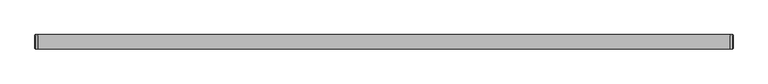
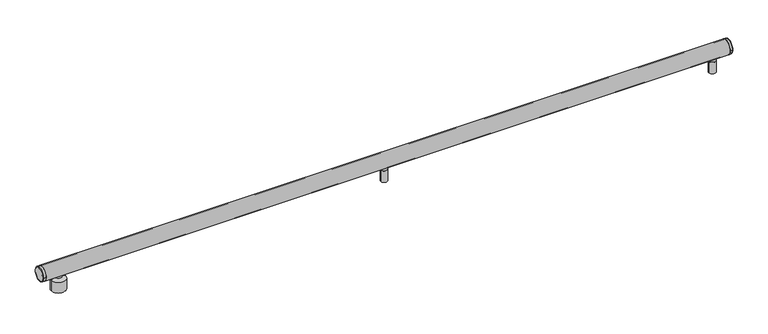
"""IFC4 building model written with IfcOpenShell, lengths in millimetres: light fixture geometry, ARTEMIDE-AoL-StandAlone-Linear_WallCeiling : StandALone_SemiRecessed_Linear-2400mm 6969lm 3000K."""

import ifcopenshell
import ifcopenshell.guid

model = None  # the IFC model being written
_history = None  # IfcOwnerHistory: only IFC2X3 demands one
_inside = {}  # id of a spatial element -> (the spatial element, [elements in it])
_under = {}  # id of a project, library or spatial element -> (it, [spatial elements below it])
_declared = {}  # id of a project -> (the project, [libraries it declares])
_typed = {}  # id of a type object -> (the type object, [elements of that type])
_made_of = {}  # id of a material, layer set ... -> (it, [elements and type objects made of it])


def new_model(schema):
    """Start an empty IFC model of exactly this schema.

    Asked for "IFC4X3", IfcOpenShell would pick the latest addendum, in which some entities
    have other attributes; the version numbers below select the first issue.
    IFC2X3 requires an IfcOwnerHistory on every rooted entity: one is made here for all.
    """
    global model, _history
    if schema == "IFC4X3":
        model = ifcopenshell.file(schema_version=(4, 3, 0, 0))
    else:
        model = ifcopenshell.file(schema=schema)
    _inside.clear()
    _under.clear()
    _declared.clear()
    _typed.clear()
    _made_of.clear()
    _history = None
    if model.schema == "IFC2X3":
        org = make("IfcOrganization", Name="unknown")
        user = make(
            "IfcPersonAndOrganization",
            ThePerson=make("IfcPerson", FamilyName="unknown"),
            TheOrganization=org,
        )
        app = make(
            "IfcApplication",
            ApplicationDeveloper=org,
            Version="unknown",
            ApplicationFullName="unknown",
            ApplicationIdentifier="unknown",
        )
        _history = make(
            "IfcOwnerHistory",
            OwningUser=user,
            OwningApplication=app,
            ChangeAction="ADDED",
            CreationDate=0,
        )
    return model


def make(cls, **values):
    """One entity of the class cls with the attributes given. An attribute that is None is left unset."""
    return model.create_entity(
        cls, **{name: value for name, value in values.items() if value is not None}
    )


def rooted(cls, **values):
    """An entity with a GlobalId (a new one), such as an element, a storey or a relation."""
    return make(cls, GlobalId=ifcopenshell.guid.new(), OwnerHistory=_history, **values)


def si_unit(unit_type, name, prefix=None):
    """IfcSIUnit, for example si_unit("LENGTHUNIT", "METRE", prefix="MILLI")."""
    return make("IfcSIUnit", UnitType=unit_type, Prefix=prefix, Name=name)


def assignment(units):
    """IfcUnitAssignment: the units of a project."""
    return None if units is None else make("IfcUnitAssignment", Units=units)


def point(xyz):
    """IfcCartesianPoint."""
    return None if xyz is None else make("IfcCartesianPoint", Coordinates=xyz)


def direction(xyz):
    """IfcDirection."""
    return None if xyz is None else make("IfcDirection", DirectionRatios=xyz)


def frame(location, z_axis=None, x_axis=None):
    """IfcAxis2Placement3D, a coordinate frame: its origin and axes. An axis left out is left unset."""
    return make(
        "IfcAxis2Placement3D",
        Location=point(location),
        Axis=direction(z_axis),
        RefDirection=direction(x_axis),
    )


def frame_2d(location, x_axis=None):
    """IfcAxis2Placement2D, a coordinate frame in the plane: its origin and x axis."""
    return make(
        "IfcAxis2Placement2D", Location=point(location), RefDirection=direction(x_axis)
    )


def origin():
    """The frame at (0, 0, 0) with its axes left unset."""
    return frame((0.0, 0.0, 0.0))


def place(relative_to, where):
    """IfcLocalPlacement: puts the frame where relative to a parent placement (None: the world)."""
    return make(
        "IfcLocalPlacement", PlacementRelTo=relative_to, RelativePlacement=where
    )


def context(
    kind, dimensions, precision=None, world=None, true_north=None, identifier=None
):
    """IfcGeometricRepresentationContext, for example the 3D "Model" context."""
    return make(
        "IfcGeometricRepresentationContext",
        ContextIdentifier=identifier,
        ContextType=kind,
        CoordinateSpaceDimension=dimensions,
        Precision=precision,
        WorldCoordinateSystem=world,
        TrueNorth=true_north,
    )


def project(units=None, contexts=None):
    """IfcProject with its units and contexts."""
    return rooted(
        "IfcProject",
        Name="project",
        RepresentationContexts=contexts,
        UnitsInContext=assignment(units),
    )


def spatial(cls, under=None, at=None, **own):
    """A site, building, storey or space (cls), placed at a placement, below another one or the project."""
    s = rooted(cls, ObjectPlacement=at, **own)
    if under is not None:
        _under.setdefault(under.id(), (under, []))[1].append(s)
    return s


def polyline(points):
    """IfcPolyline through the points."""
    return make("IfcPolyline", Points=[point(p) for p in points])


def circle_curve(where, radius):
    """IfcCircle in the frame where."""
    return make("IfcCircle", Position=where, Radius=radius)


def ellipse_curve(where, semi_axis1, semi_axis2):
    """IfcEllipse in the frame where."""
    return make(
        "IfcEllipse", Position=where, SemiAxis1=semi_axis1, SemiAxis2=semi_axis2
    )


def trimmed(basis, trim1, trim2, sense, master):
    """IfcTrimmedCurve: the piece of a basis curve between two trims."""
    return make(
        "IfcTrimmedCurve",
        BasisCurve=basis,
        Trim1=trim1,
        Trim2=trim2,
        SenseAgreement=sense,
        MasterRepresentation=master,
    )


def segment(curve, same_sense, transition):
    """IfcCompositeCurveSegment."""
    return make(
        "IfcCompositeCurveSegment",
        Transition=transition,
        SameSense=same_sense,
        ParentCurve=curve,
    )


def composite_curve(segments, self_intersect=None):
    """IfcCompositeCurve: segments joined end to end."""
    return make("IfcCompositeCurve", Segments=segments, SelfIntersect=self_intersect)


def outline(outer, holes=None, kind="AREA"):
    """IfcArbitraryClosedProfileDef: a profile drawn as a closed curve; with holes, ...WithVoids."""
    if holes is None:
        return make("IfcArbitraryClosedProfileDef", ProfileType=kind, OuterCurve=outer)
    return make(
        "IfcArbitraryProfileDefWithVoids",
        ProfileType=kind,
        OuterCurve=outer,
        InnerCurves=holes,
    )


def extrude(swept, where, along, depth):
    """IfcExtrudedAreaSolid: the profile swept, set in the frame where, extruded along a direction by depth."""
    return make(
        "IfcExtrudedAreaSolid",
        SweptArea=swept,
        Position=where,
        ExtrudedDirection=direction(along),
        Depth=depth,
    )


def shape(context_of_items, identifier, shape_type, items):
    """IfcShapeRepresentation: the items that make up one representation, for example the "Body"."""
    return make(
        "IfcShapeRepresentation",
        ContextOfItems=context_of_items,
        RepresentationIdentifier=identifier,
        RepresentationType=shape_type,
        Items=items,
    )


def source(mapping_origin, context_of_items, identifier, shape_type, items):
    """IfcRepresentationMap: a shape defined once, which mapped items show again and again."""
    return make(
        "IfcRepresentationMap",
        MappingOrigin=mapping_origin,
        MappedRepresentation=shape(context_of_items, identifier, shape_type, items),
    )


def transform(
    local_origin,
    x_axis=None,
    y_axis=None,
    z_axis=None,
    scale=None,
    scale2=None,
    scale3=None,
    uniform=True,
):
    """IfcCartesianTransformationOperator3D, or its non-uniform kind. x_axis, y_axis, z_axis: its Axis1, 2, 3."""
    if uniform:
        return make(
            "IfcCartesianTransformationOperator3D",
            Axis1=direction(x_axis),
            Axis2=direction(y_axis),
            LocalOrigin=point(local_origin),
            Scale=scale,
            Axis3=direction(z_axis),
        )
    return make(
        "IfcCartesianTransformationOperator3DnonUniform",
        Axis1=direction(x_axis),
        Axis2=direction(y_axis),
        LocalOrigin=point(local_origin),
        Scale=scale,
        Axis3=direction(z_axis),
        Scale2=scale2,
        Scale3=scale3,
    )


def mapped(mapping_source, mapping_target):
    """IfcMappedItem: shows the shape of a source again, moved by a transform."""
    return make(
        "IfcMappedItem", MappingSource=mapping_source, MappingTarget=mapping_target
    )


def made_of(thing, what):
    """Note that an element or type object is made of a material, layer set ...; save() writes the relation."""
    if what is not None:
        _made_of.setdefault(what.id(), (what, []))[1].append(thing)
    return thing


def element(
    cls,
    number,
    at=None,
    inside=None,
    cuts=None,
    type_object=None,
    material=None,
    context=None,
    identifier="Body",
    shape_type=None,
    held_by="IfcProductDefinitionShape",
    body=None,
    shapes=None,
    **own,
):
    """One element of the class cls, such as IfcWall. Its Tag is "e" and its number.

    at: its placement. inside: the storey or other place that contains it. cuts: it is an
    opening in that element (IfcRelVoidsElement). A single representation is given by context,
    identifier, shape_type and body (its items); several are given by shapes. held_by: the class
    of the entity that holds the representations. save() writes the other relations.
    """
    e = rooted(cls, Tag="e%d" % number, ObjectPlacement=at, **own)
    if body is not None:
        shapes = [shape(context, identifier, shape_type, body)]
    if shapes is not None:
        e.Representation = make(held_by, Representations=shapes)
    if inside is not None:
        _inside.setdefault(inside.id(), (inside, []))[1].append(e)
    if cuts is not None:
        rooted(
            "IfcRelVoidsElement", RelatingBuildingElement=cuts, RelatedOpeningElement=e
        )
    if type_object is not None:
        _typed.setdefault(type_object.id(), (type_object, []))[1].append(e)
    return made_of(e, material)


def aggregate(whole, parts):
    """IfcRelAggregates: a whole, such as a stair, and the parts it consists of."""
    return rooted("IfcRelAggregates", RelatingObject=whole, RelatedObjects=parts)


def save(model, path):
    """Write the relations noted so far, then the file.

    IfcRelAggregates (storeys below a building ...), IfcRelContainedInSpatialStructure (elements
    in a storey), IfcRelDefinesByType, IfcRelAssociatesMaterial and IfcRelDeclares: one each for
    every whole, place, type object, material and project.
    """
    for whole, parts in _under.values():
        aggregate(whole, parts)
    for where, things in _inside.values():
        rooted(
            "IfcRelContainedInSpatialStructure",
            RelatedElements=things,
            RelatingStructure=where,
        )
    for kind, things in _typed.values():
        rooted("IfcRelDefinesByType", RelatedObjects=things, RelatingType=kind)
    for what, things in _made_of.values():
        rooted("IfcRelAssociatesMaterial", RelatedObjects=things, RelatingMaterial=what)
    for by, libraries in _declared.values():
        rooted("IfcRelDeclares", RelatingContext=by, RelatedDefinitions=libraries)
    model.write(path)


def plane_surface(at):
    """IfcPlane: the flat surface through the origin of the frame at, square to its z axis."""
    return make("IfcPlane", Position=at)


def cylinder_surface(at, radius):
    """IfcCylindricalSurface: all points at the distance radius from the z axis of the frame at."""
    return make("IfcCylindricalSurface", Position=at, Radius=radius)


def revolved_surface(curve, axis_point, axis_direction):
    """IfcSurfaceOfRevolution: the curve turned about the line through axis_point along axis_direction."""
    return make(
        "IfcSurfaceOfRevolution",
        SweptCurve=make("IfcArbitraryOpenProfileDef", ProfileType="CURVE", Curve=curve),
        AxisPosition=make("IfcAxis1Placement", Location=point(axis_point), Axis=direction(axis_direction)),
    )


def advanced_brep(points, edges, surfaces, faces):
    """IfcAdvancedBrep: a solid bounded by faces that lie on surfaces and meet in shared edges.

    An edge is (start, end): straight between two places in points (the first is 0);
    or (start, end, curve); or (start, end, curve, False) where it runs against its curve.
    A face is (place in surfaces, loops), or (place, loops, False) where it looks against
    its surface's normal. A loop lists edges by number (the first is 1), with a minus sign
    where the edge is run from its end to its start. The first loop is the outer one.
    """
    corners = [point(p) for p in points]
    vertices = [make("IfcVertexPoint", VertexGeometry=c) for c in corners]
    made = []
    for start, end, *more in edges:
        made.append(
            make(
                "IfcEdgeCurve",
                EdgeStart=vertices[start],
                EdgeEnd=vertices[end],
                EdgeGeometry=more[0] if more else make("IfcPolyline", Points=[corners[start], corners[end]]),
                SameSense=more[1] if len(more) > 1 else True,
            )
        )
    hull = []
    for where, loops, *sense in faces:
        bounds = []
        for j, loop in enumerate(loops):
            ring = [make("IfcOrientedEdge", EdgeElement=made[abs(k) - 1], Orientation=k > 0) for k in loop]
            bounds.append(
                make(
                    "IfcFaceOuterBound" if j == 0 else "IfcFaceBound",
                    Bound=make("IfcEdgeLoop", EdgeList=ring),
                    Orientation=True,
                )
            )
        hull.append(make("IfcAdvancedFace", Bounds=bounds, FaceSurface=surfaces[where], SameSense=sense[0] if sense else True))
    return make("IfcAdvancedBrep", Outer=make("IfcClosedShell", CfsFaces=hull))


def light_fixture_d108cfff(model_context):
    return source(origin(), model_context, "Body", "SolidModel", [
        advanced_brep(
        [(57.0, 0.0, 54.0), (69.0, 0.0, 54.0), (45.0, 0.0, 54.0), (32.0, 0.0, 0.0), (82.0, 0.0, 0.0), (57.0, 0.0, 0.0), (32.0, 0.0, 37.5120373), (82.0, 0.0, 37.5120373), (45.0, 0.0, 44.4453706), (69.0, 0.0, 44.4453706)],
        [
            (0, 1),
            (1, 2, circle_curve(frame((57.0, 0.0, 54.0), z_axis=(0.0, 0.0, 1.0), x_axis=(1.0, 0.0, 0.0)), 12.0)),
            (2, 0),
            (2, 1, circle_curve(frame((57.0, 0.0, 54.0), z_axis=(0.0, 0.0, 1.0), x_axis=(1.0, 0.0, 0.0)), 12.0)),
            (3, 4, circle_curve(frame((57.0, 0.0, 0.0), z_axis=(0.0, 0.0, -1.0), x_axis=(1.0, 0.0, 0.0)), 25.0)),
            (4, 5),
            (5, 3),
            (4, 3, circle_curve(frame((57.0, 0.0, 0.0), z_axis=(0.0, 0.0, -1.0), x_axis=(1.0, 0.0, 0.0)), 25.0)),
            (6, 7, circle_curve(frame((57.0, 0.0, 37.5120373), z_axis=(0.0, 0.0, -1.0), x_axis=(1.0, 0.0, 0.0)), 25.0)),
            (7, 4),
            (3, 6),
            (7, 6, circle_curve(frame((57.0, 0.0, 37.5120373), z_axis=(0.0, 0.0, -1.0), x_axis=(1.0, 0.0, 0.0)), 25.0)),
            (8, 9, circle_curve(frame((57.0, 0.0, 44.4453706), z_axis=(0.0, 0.0, -1.0), x_axis=(1.0, 0.0, 0.0)), 12.0)),
            (9, 7),
            (6, 8),
            (9, 8, circle_curve(frame((57.0, 0.0, 44.4453706), z_axis=(0.0, 0.0, -1.0), x_axis=(1.0, 0.0, 0.0)), 12.0)),
            (1, 9),
            (8, 2),
        ],
        [
            plane_surface(frame((57.0, 0.0, 54.0), z_axis=(0.0, 0.0, 1.0), x_axis=(1.0, 0.0, 0.0))),
            plane_surface(frame((57.0, 0.0, 0.0), z_axis=(0.0, 0.0, -1.0), x_axis=(1.0, 0.0, 0.0))),
            cylinder_surface(frame((57.0, 0.0, -58.83358), z_axis=(0.0, 0.0, 1.0), x_axis=(1.0, 0.0, 0.0)), 25.0),
            revolved_surface(polyline([(82.0, 0.0, 37.5120373), (69.0, 0.0, 44.4453706)]), (57.0, 0.0, -58.83358), (0.0, 0.0, 1.0)),
            cylinder_surface(frame((57.0, 0.0, -58.83358), z_axis=(0.0, 0.0, 1.0), x_axis=(1.0, 0.0, 0.0)), 12.0),
        ],
        [
            (0, [[1, 2, 3]]),
            (0, [[-3, 4, -1]]),
            (1, [[5, 6, 7]]),
            (1, [[8, -7, -6]]),
            (2, [[9, 10, -5, 11]]),
            (2, [[12, -11, -8, -10]]),
            (3, [[13, 14, -9, 15]]),
            (3, [[16, -15, -12, -14]]),
            (4, [[-2, 17, -13, 18]]),
            (4, [[-4, -18, -16, -17]]),
        ],
    ),
        advanced_brep(
        [(2326.5, 0.0, 0.0), (2337.5, 0.0, 0.0), (2332.0, 0.0, 0.0), (2326.5, 0.0, 1.0), (2337.5, 0.0, 1.0), (2320.0, 0.0, 1.0), (2344.0, 0.0, 1.0), (2320.0, 0.0, 42.5), (2344.0, 0.0, 42.5), (2322.4756244, 0.0, 42.5), (2341.5243756, 0.0, 42.5), (2322.4756244, 0.0, 43.4995055), (2341.5243756, 0.0, 43.4995055), (2320.0, 0.0, 43.4995055), (2344.0, 0.0, 43.4995055), (2320.0, 0.0, 52.9579379), (2344.0, 0.0, 52.9579379), (2332.0, 0.0, 52.9579379)],
        [
            (0, 1, circle_curve(frame((2332.0, 0.0, 0.0), z_axis=(0.0, 0.0, -1.0), x_axis=(1.0, 0.0, 0.0)), 5.5)),
            (1, 2),
            (2, 0),
            (1, 0, circle_curve(frame((2332.0, 0.0, 0.0), z_axis=(0.0, 0.0, -1.0), x_axis=(1.0, 0.0, 0.0)), 5.5)),
            (3, 4, circle_curve(frame((2332.0, 0.0, 1.0), z_axis=(0.0, 0.0, -1.0), x_axis=(1.0, 0.0, 0.0)), 5.5)),
            (4, 1),
            (0, 3),
            (4, 3, circle_curve(frame((2332.0, 0.0, 1.0), z_axis=(0.0, 0.0, -1.0), x_axis=(1.0, 0.0, 0.0)), 5.5)),
            (5, 6, circle_curve(frame((2332.0, 0.0, 1.0), z_axis=(0.0, 0.0, -1.0), x_axis=(1.0, 0.0, 0.0)), 12.0)),
            (6, 4),
            (3, 5),
            (6, 5, circle_curve(frame((2332.0, 0.0, 1.0), z_axis=(0.0, 0.0, -1.0), x_axis=(1.0, 0.0, 0.0)), 12.0)),
            (7, 8, circle_curve(frame((2332.0, 0.0, 42.5), z_axis=(0.0, 0.0, -1.0), x_axis=(1.0, 0.0, 0.0)), 12.0)),
            (8, 6),
            (5, 7),
            (8, 7, circle_curve(frame((2332.0, 0.0, 42.5), z_axis=(0.0, 0.0, -1.0), x_axis=(1.0, 0.0, 0.0)), 12.0)),
            (9, 10, circle_curve(frame((2332.0, 0.0, 42.5), z_axis=(0.0, 0.0, -1.0), x_axis=(1.0, 0.0, 0.0)), 9.5243756)),
            (10, 8),
            (7, 9),
            (10, 9, circle_curve(frame((2332.0, 0.0, 42.5), z_axis=(0.0, 0.0, -1.0), x_axis=(1.0, 0.0, 0.0)), 9.5243756)),
            (11, 12, circle_curve(frame((2332.0, 0.0, 43.4995055), z_axis=(0.0, 0.0, -1.0), x_axis=(1.0, 0.0, 0.0)), 9.5243756)),
            (12, 10),
            (9, 11),
            (12, 11, circle_curve(frame((2332.0, 0.0, 43.4995055), z_axis=(0.0, 0.0, -1.0), x_axis=(1.0, 0.0, 0.0)), 9.5243756)),
            (13, 14, circle_curve(frame((2332.0, 0.0, 43.4995055), z_axis=(0.0, 0.0, -1.0), x_axis=(1.0, 0.0, 0.0)), 12.0)),
            (14, 12),
            (11, 13),
            (14, 13, circle_curve(frame((2332.0, 0.0, 43.4995055), z_axis=(0.0, 0.0, -1.0), x_axis=(1.0, 0.0, 0.0)), 12.0)),
            (15, 16, circle_curve(frame((2332.0, 0.0, 52.9579379), z_axis=(0.0, 0.0, -1.0), x_axis=(1.0, 0.0, 0.0)), 12.0)),
            (16, 14),
            (13, 15),
            (16, 15, circle_curve(frame((2332.0, 0.0, 52.9579379), z_axis=(0.0, 0.0, -1.0), x_axis=(1.0, 0.0, 0.0)), 12.0)),
            (17, 16),
            (15, 17),
        ],
        [
            plane_surface(frame((2332.0, 0.0, 0.0), z_axis=(0.0, 0.0, -1.0), x_axis=(1.0, 0.0, 0.0))),
            cylinder_surface(frame((2332.0, 0.0, -58.83358), z_axis=(0.0, 0.0, 1.0), x_axis=(1.0, 0.0, 0.0)), 5.5),
            plane_surface(frame((2332.0, 0.0, 1.0), z_axis=(0.0, 0.0, -1.0), x_axis=(1.0, 0.0, 0.0))),
            cylinder_surface(frame((2332.0, 0.0, -58.83358), z_axis=(0.0, 0.0, 1.0), x_axis=(1.0, 0.0, 0.0)), 12.0),
            plane_surface(frame((2332.0, 0.0, 42.5), z_axis=(0.0, 0.0, 1.0), x_axis=(1.0, 0.0, 0.0))),
            cylinder_surface(frame((2332.0, 0.0, -58.83358), z_axis=(0.0, 0.0, 1.0), x_axis=(1.0, 0.0, 0.0)), 9.5243756),
            plane_surface(frame((2332.0, 0.0, 43.4995055), z_axis=(0.0, 0.0, -1.0), x_axis=(1.0, 0.0, 0.0))),
            plane_surface(frame((2332.0, 0.0, 52.9579379), z_axis=(0.0, 0.0, 1.0), x_axis=(1.0, 0.0, 0.0))),
        ],
        [
            (0, [[1, 2, 3]]),
            (0, [[4, -3, -2]]),
            (1, [[5, 6, -1, 7]]),
            (1, [[8, -7, -4, -6]]),
            (2, [[9, 10, -5, 11]]),
            (2, [[12, -11, -8, -10]]),
            (3, [[13, 14, -9, 15]]),
            (3, [[16, -15, -12, -14]]),
            (4, [[17, 18, -13, 19]]),
            (4, [[20, -19, -16, -18]]),
            (5, [[21, 22, -17, 23]]),
            (5, [[24, -23, -20, -22]]),
            (6, [[25, 26, -21, 27]]),
            (6, [[28, -27, -24, -26]]),
            (3, [[29, 30, -25, 31]]),
            (3, [[32, -31, -28, -30]]),
            (7, [[33, -29, 34]]),
            (7, [[-34, -32, -33]]),
        ],
    ),
        advanced_brep(
        [(1184.5, 0.0, 0.0), (1195.5, 0.0, 0.0), (1190.0, 0.0, 0.0), (1184.5, 0.0, 1.0), (1195.5, 0.0, 1.0), (1178.0, 0.0, 1.0), (1202.0, 0.0, 1.0), (1178.0, 0.0, 42.5), (1202.0, 0.0, 42.5), (1180.4756244, 0.0, 42.5), (1199.5243756, 0.0, 42.5), (1180.4756244, 0.0, 43.4995055), (1199.5243756, 0.0, 43.4995055), (1178.0, 0.0, 43.4995055), (1202.0, 0.0, 43.4995055), (1178.0, 0.0, 52.9579379), (1202.0, 0.0, 52.9579379), (1190.0, 0.0, 52.9579379)],
        [
            (0, 1, circle_curve(frame((1190.0, 0.0, 0.0), z_axis=(0.0, 0.0, -1.0), x_axis=(1.0, 0.0, 0.0)), 5.5)),
            (1, 2),
            (2, 0),
            (1, 0, circle_curve(frame((1190.0, 0.0, 0.0), z_axis=(0.0, 0.0, -1.0), x_axis=(1.0, 0.0, 0.0)), 5.5)),
            (3, 4, circle_curve(frame((1190.0, 0.0, 1.0), z_axis=(0.0, 0.0, -1.0), x_axis=(1.0, 0.0, 0.0)), 5.5)),
            (4, 1),
            (0, 3),
            (4, 3, circle_curve(frame((1190.0, 0.0, 1.0), z_axis=(0.0, 0.0, -1.0), x_axis=(1.0, 0.0, 0.0)), 5.5)),
            (5, 6, circle_curve(frame((1190.0, 0.0, 1.0), z_axis=(0.0, 0.0, -1.0), x_axis=(1.0, 0.0, 0.0)), 12.0)),
            (6, 4),
            (3, 5),
            (6, 5, circle_curve(frame((1190.0, 0.0, 1.0), z_axis=(0.0, 0.0, -1.0), x_axis=(1.0, 0.0, 0.0)), 12.0)),
            (7, 8, circle_curve(frame((1190.0, 0.0, 42.5), z_axis=(0.0, 0.0, -1.0), x_axis=(1.0, 0.0, 0.0)), 12.0)),
            (8, 6),
            (5, 7),
            (8, 7, circle_curve(frame((1190.0, 0.0, 42.5), z_axis=(0.0, 0.0, -1.0), x_axis=(1.0, 0.0, 0.0)), 12.0)),
            (9, 10, circle_curve(frame((1190.0, 0.0, 42.5), z_axis=(0.0, 0.0, -1.0), x_axis=(1.0, 0.0, 0.0)), 9.5243756)),
            (10, 8),
            (7, 9),
            (10, 9, circle_curve(frame((1190.0, 0.0, 42.5), z_axis=(0.0, 0.0, -1.0), x_axis=(1.0, 0.0, 0.0)), 9.5243756)),
            (11, 12, circle_curve(frame((1190.0, 0.0, 43.4995055), z_axis=(0.0, 0.0, -1.0), x_axis=(1.0, 0.0, 0.0)), 9.5243756)),
            (12, 10),
            (9, 11),
            (12, 11, circle_curve(frame((1190.0, 0.0, 43.4995055), z_axis=(0.0, 0.0, -1.0), x_axis=(1.0, 0.0, 0.0)), 9.5243756)),
            (13, 14, circle_curve(frame((1190.0, 0.0, 43.4995055), z_axis=(0.0, 0.0, -1.0), x_axis=(1.0, 0.0, 0.0)), 12.0)),
            (14, 12),
            (11, 13),
            (14, 13, circle_curve(frame((1190.0, 0.0, 43.4995055), z_axis=(0.0, 0.0, -1.0), x_axis=(1.0, 0.0, 0.0)), 12.0)),
            (15, 16, circle_curve(frame((1190.0, 0.0, 52.9579379), z_axis=(0.0, 0.0, -1.0), x_axis=(1.0, 0.0, 0.0)), 12.0)),
            (16, 14),
            (13, 15),
            (16, 15, circle_curve(frame((1190.0, 0.0, 52.9579379), z_axis=(0.0, 0.0, -1.0), x_axis=(1.0, 0.0, 0.0)), 12.0)),
            (17, 16),
            (15, 17),
        ],
        [
            plane_surface(frame((1190.0, 0.0, 0.0), z_axis=(0.0, 0.0, -1.0), x_axis=(1.0, 0.0, 0.0))),
            cylinder_surface(frame((1190.0, 0.0, -58.83358), z_axis=(0.0, 0.0, 1.0), x_axis=(1.0, 0.0, 0.0)), 5.5),
            plane_surface(frame((1190.0, 0.0, 1.0), z_axis=(0.0, 0.0, -1.0), x_axis=(1.0, 0.0, 0.0))),
            cylinder_surface(frame((1190.0, 0.0, -58.83358), z_axis=(0.0, 0.0, 1.0), x_axis=(1.0, 0.0, 0.0)), 12.0),
            plane_surface(frame((1190.0, 0.0, 42.5), z_axis=(0.0, 0.0, 1.0), x_axis=(1.0, 0.0, 0.0))),
            cylinder_surface(frame((1190.0, 0.0, -58.83358), z_axis=(0.0, 0.0, 1.0), x_axis=(1.0, 0.0, 0.0)), 9.5243756),
            plane_surface(frame((1190.0, 0.0, 43.4995055), z_axis=(0.0, 0.0, -1.0), x_axis=(1.0, 0.0, 0.0))),
            plane_surface(frame((1190.0, 0.0, 52.9579379), z_axis=(0.0, 0.0, 1.0), x_axis=(1.0, 0.0, 0.0))),
        ],
        [
            (0, [[1, 2, 3]]),
            (0, [[4, -3, -2]]),
            (1, [[5, 6, -1, 7]]),
            (1, [[8, -7, -4, -6]]),
            (2, [[9, 10, -5, 11]]),
            (2, [[12, -11, -8, -10]]),
            (3, [[13, 14, -9, 15]]),
            (3, [[16, -15, -12, -14]]),
            (4, [[17, 18, -13, 19]]),
            (4, [[20, -19, -16, -18]]),
            (5, [[21, 22, -17, 23]]),
            (5, [[24, -23, -20, -22]]),
            (6, [[25, 26, -21, 27]]),
            (6, [[28, -27, -24, -26]]),
            (3, [[29, 30, -25, 31]]),
            (3, [[32, -31, -28, -30]]),
            (7, [[33, -29, 34]]),
            (7, [[-34, -32, -33]]),
        ],
    ),
        advanced_brep(
        [(-10.0, 22.0, 75.0), (-10.0, -22.0, 75.0), (0.0, 25.0, 75.0), (0.0, -25.0, 75.0), (-7.0, -25.0, 75.0), (-7.0, 25.0, 75.0)],
        [
            (0, 1, circle_curve(frame((-10.0, 0.0, 75.0), z_axis=(-1.0, 0.0, 0.0), x_axis=(0.0, -1.0, 0.0)), 22.0)),
            (1, 0, circle_curve(frame((-10.0, 0.0, 75.0), z_axis=(-1.0, 0.0, 0.0), x_axis=(0.0, 1.0, 0.0)), 22.0)),
            (2, 3, circle_curve(frame((0.0, 0.0, 75.0), z_axis=(1.0, 0.0, 0.0), x_axis=(0.0, -1.0, 0.0)), 25.0)),
            (3, 2, circle_curve(frame((0.0, 0.0, 75.0), z_axis=(1.0, 0.0, 0.0), x_axis=(0.0, -1.0, 0.0)), 25.0)),
            (3, 4),
            (4, 5, circle_curve(frame((-7.0, 0.0, 75.0), z_axis=(1.0, 0.0, 0.0), x_axis=(0.0, -1.0, 0.0)), 25.0)),
            (5, 2),
            (5, 4, circle_curve(frame((-7.0, 0.0, 75.0), z_axis=(1.0, 0.0, 0.0), x_axis=(0.0, -1.0, 0.0)), 25.0)),
            (0, 5, circle_curve(frame((-7.0, 22.0, 75.0), z_axis=(0.0, 0.0, -1.0), x_axis=(0.0, 1.0, 0.0)), 3.0)),
            (4, 1, circle_curve(frame((-7.0, -22.0, 75.0), z_axis=(0.0, 0.0, -1.0), x_axis=(0.0, -1.0, 0.0)), 3.0)),
        ],
        [
            plane_surface(frame((-10.0, -25.0, 75.0), z_axis=(-1.0, 0.0, 0.0), x_axis=(0.0, 0.0, 1.0))),
            plane_surface(frame((0.0, -25.0, 75.0), z_axis=(1.0, 0.0, 0.0), x_axis=(0.0, 0.0, -1.0))),
            cylinder_surface(frame((0.0, 0.0, 75.0), z_axis=(-1.0, 0.0, 0.0), x_axis=(0.0, -1.0, 0.0)), 25.0),
            revolved_surface(trimmed(ellipse_curve(frame((-7.0, -22.0, 75.0), z_axis=(0.0, 0.0, 1.0), x_axis=(0.0, -1.0, 0.0)), 3.0, 3.0), [point((-10.0, -22.0, 75.0))], [point((-7.0, -25.0, 75.0))], True, "CARTESIAN"), (-10.0, 0.0, 75.0), (1.0, 0.0, 0.0)),
            revolved_surface(trimmed(ellipse_curve(frame((-7.0, 22.0, 75.0), z_axis=(0.0, 0.0, -1.0), x_axis=(0.0, 1.0, 0.0)), 3.0, 3.0), [point((-10.0, 22.0, 75.0))], [point((-7.0, 25.0, 75.0))], True, "CARTESIAN"), (-10.0, 0.0, 75.0), (1.0, 0.0, 0.0)),
        ],
        [
            (0, [[1, 2]]),
            (1, [[3, 4]]),
            (2, [[-4, 5, 6, 7]]),
            (2, [[-3, -7, 8, -5]]),
            (3, [[9, -6, 10, -1]]),
            (4, [[-9, -2, -10, -8]]),
        ],
    ),
        advanced_brep(
        [(2390.0, -22.0, 75.0), (2390.0, 22.0, 75.0), (2380.0, 25.0, 75.0), (2380.0, -25.0, 75.0), (2387.0, -25.0, 75.0), (2387.0, 25.0, 75.0)],
        [
            (0, 1, circle_curve(frame((2390.0, 0.0, 75.0), z_axis=(1.0, 0.0, 0.0), x_axis=(0.0, 1.0, 0.0)), 22.0)),
            (1, 0, circle_curve(frame((2390.0, 0.0, 75.0), z_axis=(1.0, 0.0, 0.0), x_axis=(0.0, -1.0, 0.0)), 22.0)),
            (2, 3, circle_curve(frame((2380.0, 0.0, 75.0), z_axis=(-1.0, 0.0, 0.0), x_axis=(0.0, 0.0, 1.0)), 25.0)),
            (3, 2, circle_curve(frame((2380.0, 0.0, 75.0), z_axis=(-1.0, 0.0, 0.0), x_axis=(0.0, 0.0, 1.0)), 25.0)),
            (3, 4),
            (4, 5, circle_curve(frame((2387.0, 0.0, 75.0), z_axis=(-1.0, 0.0, 0.0), x_axis=(0.0, 0.0, 1.0)), 25.0)),
            (5, 2),
            (5, 4, circle_curve(frame((2387.0, 0.0, 75.0), z_axis=(-1.0, 0.0, 0.0), x_axis=(0.0, 0.0, 1.0)), 25.0)),
            (0, 4, circle_curve(frame((2387.0, -22.0, 75.0), z_axis=(0.0, 0.0, -1.0), x_axis=(0.0, -1.0, 0.0)), 3.0)),
            (5, 1, circle_curve(frame((2387.0, 22.0, 75.0), z_axis=(0.0, 0.0, -1.0), x_axis=(0.0, 1.0, 0.0)), 3.0)),
        ],
        [
            plane_surface(frame((2390.0, 0.0, 100.0), z_axis=(1.0, 0.0, 0.0), x_axis=(0.0, -1.0, 0.0))),
            plane_surface(frame((2380.0, 0.0, 100.0), z_axis=(-1.0, 0.0, 0.0), x_axis=(0.0, 1.0, 0.0))),
            cylinder_surface(frame((2380.0, 0.0, 75.0), z_axis=(1.0, 0.0, 0.0), x_axis=(0.0, 0.0, 1.0)), 25.0),
            revolved_surface(trimmed(ellipse_curve(frame((2387.0, 22.0, 75.0), z_axis=(0.0, 0.0, 1.0), x_axis=(0.0, 1.0, 0.0)), 3.0, 3.0), [point((2390.0, 22.0, 75.0))], [point((2387.0, 25.0, 75.0))], True, "CARTESIAN"), (2390.0, 0.0, 75.0), (-1.0, 0.0, 0.0)),
            revolved_surface(trimmed(ellipse_curve(frame((2387.0, -22.0, 75.0), z_axis=(0.0, 0.0, -1.0), x_axis=(0.0, -1.0, 0.0)), 3.0, 3.0), [point((2390.0, -22.0, 75.0))], [point((2387.0, -25.0, 75.0))], True, "CARTESIAN"), (2390.0, 0.0, 75.0), (-1.0, 0.0, 0.0)),
        ],
        [
            (0, [[1, 2]]),
            (1, [[3, 4]]),
            (2, [[-4, 5, 6, 7]]),
            (2, [[-3, -7, 8, -5]]),
            (3, [[9, -8, 10, -1]]),
            (4, [[-9, -2, -10, -6]]),
        ],
    ),
        extrude(outline(composite_curve([segment(trimmed(circle_curve(frame_2d((0.0, 75.0)), 25.0), [point((-11.75, 52.9333396))], [point((11.75, 52.9333396))], False, "CARTESIAN"), True, "CONTINUOUS"), segment(polyline([(11.75, 52.9333396), (11.75, 57.259212), (13.667754, 57.259212), (13.667754, 55.8288843), (15.617754, 57.2440748), (15.617754, 59.244074), (12.667754, 59.244074), (12.667754, 60.744074), (17.2779794, 60.744074)]), True, "CONTINUOUS"), segment(trimmed(circle_curve(frame_2d((0.0, 75.0)), 22.4), [point((17.2779794, 60.744074))], [point((-17.2779794, 60.744074))], True, "CARTESIAN"), True, "CONTINUOUS"), segment(polyline([(-17.2779794, 60.744074), (-12.667754, 60.744074), (-12.667754, 59.244074), (-15.617754, 59.244074), (-15.617754, 57.2440748), (-13.667754, 55.8288843), (-13.667754, 57.259212), (-11.75, 57.259212), (-11.75, 52.9333396)]), True, "CONTINUOUS")], self_intersect=False)), frame((0.0, 0.0, 0.0), z_axis=(1.0, 0.0, 0.0), x_axis=(0.0, 1.0, 0.0)), (0.0, 0.0, 1.0), 2380.0),
        extrude(outline(composite_curve([segment(trimmed(circle_curve(frame_2d((0.0, 75.0)), 25.0), [point((11.75, 52.9333396))], [point((-11.75, 52.9333396))], False, "CARTESIAN"), True, "CONTINUOUS"), segment(polyline([(-11.75, 52.9333396), (-11.75, 57.259212), (-15.304087, 57.259212), (-15.304087, 58.785971), (-9.5062575, 58.785971), (-9.5062575, 64.4273482), (9.5062575, 64.4273482), (9.5062575, 58.785971), (15.304087, 58.785971), (15.304087, 57.259212), (11.75, 57.259212), (11.75, 52.9333396)]), True, "CONTINUOUS")], self_intersect=False)), frame((0.0, 0.0, 0.0), z_axis=(1.0, 0.0, 0.0), x_axis=(0.0, 1.0, 0.0)), (0.0, 0.0, 1.0), 2380.0),
    ])


if __name__ == "__main__":
    model = new_model("IFC4")
    model_context = context("Model", 3, world=origin())
    ifc_project = project(units=[si_unit("LENGTHUNIT", "METRE", prefix="MILLI")], contexts=[model_context])
    site = spatial("IfcSite", under=ifc_project)
    building = spatial("IfcBuilding", under=site)
    placement = place(None, origin())
    light_fixture_shape = light_fixture_d108cfff(model_context)
    element("IfcLightFixture", 1, ObjectType="ARTEMIDE-AoL-StandAlone-Linear_WallCeiling : StandALone_SemiRecessed_Linear-2400mm 6969lm 3000K", at=placement, inside=building, context=model_context, shape_type="MappedRepresentation", body=[
        mapped(light_fixture_shape, transform((0.0, 0.0, 0.0), x_axis=(1.0, 0.0, 0.0), y_axis=(0.0, 1.0, 0.0), z_axis=(0.0, 0.0, 1.0))),
    ])
    save(model, "model.ifc")
